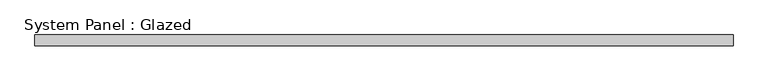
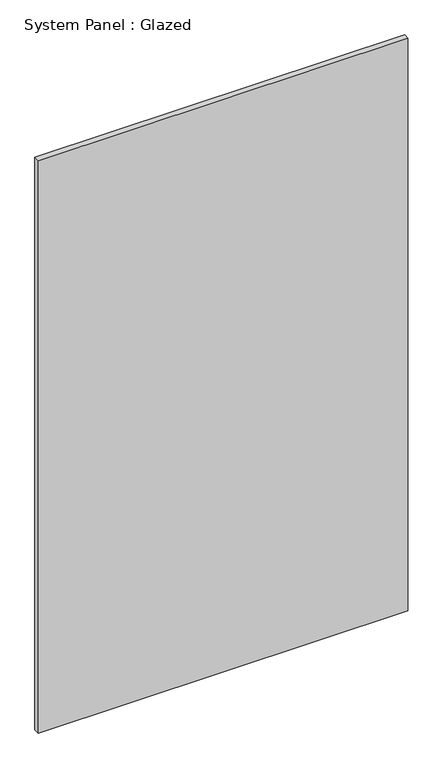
"""IFC4 building model written with IfcOpenShell, lengths in millimetres: plate geometry, System Panel : Glazed."""

from ifc_helpers import new_model, si_unit, origin, origin_with_axes, place, context, project, spatial, polyline, outline, extrude, source, transform, mapped, element, save


def system_panel_glazed_77a44a71(model_context):
    return source(origin(), model_context, "Body", "SweptSolid", [
        extrude(outline(polyline([(816.1763047, 19.05), (-816.1763047, 19.05), (-816.1763047, 44.45), (816.1763047, 44.45), (816.1763047, 19.05)])), origin_with_axes(), (0.0, 0.0, 1.0), 2673.0),
    ])


if __name__ == "__main__":
    model = new_model("IFC4")
    model_context = context("Model", 3, world=origin())
    ifc_project = project(units=[si_unit("LENGTHUNIT", "METRE", prefix="MILLI")], contexts=[model_context])
    site = spatial("IfcSite", under=ifc_project)
    building = spatial("IfcBuilding", under=site)
    placement = place(None, origin())
    system_panel_glazed_shape = system_panel_glazed_77a44a71(model_context)
    element("IfcPlate", 1, ObjectType="System Panel : Glazed", at=placement, inside=building, context=model_context, shape_type="MappedRepresentation", body=[
        mapped(system_panel_glazed_shape, transform((0.0, 0.0, 0.0), x_axis=(1.0, 0.0, 0.0), y_axis=(0.0, 1.0, 0.0), z_axis=(0.0, 0.0, 1.0))),
    ])
    save(model, "model.ifc")
